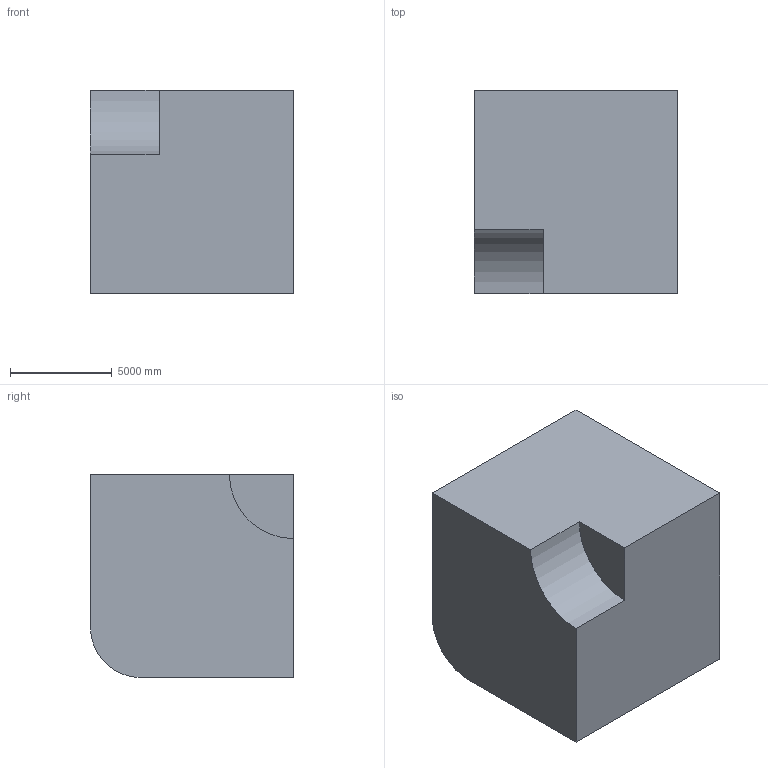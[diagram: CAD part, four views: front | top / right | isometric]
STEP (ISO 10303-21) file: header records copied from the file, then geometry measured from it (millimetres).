
FILE_DESCRIPTION (( 'STEP AP203' ), '1' );
FILE_NAME ('230.STEP', '2022-07-28T13:58:49', ( 'user' ), ( '' ), 'SwSTEP 2.0', 'SolidWorks 2021', '' );
FILE_SCHEMA (( 'CONFIG_CONTROL_DESIGN' ));
Length unit declared in the file: centimetre
Products named in the file (1): 230
Bounding box: 10000 x 10000 x 10000 mm (x, y, z)
Volume: 921413902754.4 mm3; surface area: 642856641.1 mm2
Topology: 1 solids, 1 shells, 16 faces, 39 edges, 26 vertices
Faces by surface type: plane 14, cylinder 2
Entity records: 544 total; most frequent: CARTESIAN_POINT 82, ORIENTED_EDGE 78, DIRECTION 77, EDGE_CURVE 39, LINE 35, VECTOR 35, VERTEX_POINT 26, AXIS2_PLACEMENT_3D 21
